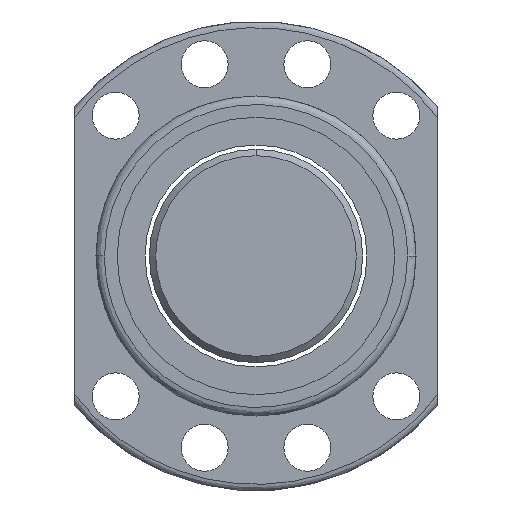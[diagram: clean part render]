
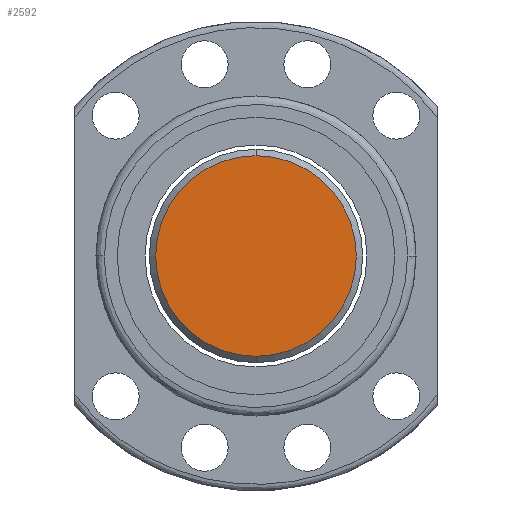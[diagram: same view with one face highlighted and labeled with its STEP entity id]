
A CAD part, left-side view. The second image highlights one B-rep face of the part: STEP entity #2592.
In plain terms, the highlighted planar face has unit normal (-1, 0, 0).
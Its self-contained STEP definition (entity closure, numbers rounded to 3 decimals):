
#363 = CARTESIAN_POINT ( 'NONE',  ( -211., 0., 23.5 ) ) ;
#514 = CIRCLE ( 'NONE', #518, 23.5 ) ;
#516 = DIRECTION ( 'NONE',  ( 0., 0., -1. ) ) ;
#517 = DIRECTION ( 'NONE',  ( 1., 0., 0. ) ) ;
#518 = AXIS2_PLACEMENT_3D ( 'NONE', #520, #517, #516 ) ;
#520 = CARTESIAN_POINT ( 'NONE',  ( -211., 0., 0. ) ) ;
#562 = DIRECTION ( 'NONE',  ( 0., 0., -1. ) ) ;
#563 = DIRECTION ( 'NONE',  ( 1., 0., 0. ) ) ;
#564 = CARTESIAN_POINT ( 'NONE',  ( -211., 0., 0. ) ) ;
#575 = AXIS2_PLACEMENT_3D ( 'NONE', #564, #563, #562 ) ;
#582 = CIRCLE ( 'NONE', #575, 23.5 ) ;
#606 = CARTESIAN_POINT ( 'NONE',  ( -211., 0., -23.5 ) ) ;
#2166 = FACE_OUTER_BOUND ( 'NONE', #2668, .T. ) ;
#2167 = PLANE ( 'NONE',  #2172 ) ;
#2168 = DIRECTION ( 'NONE',  ( -1., 0., 0. ) ) ;
#2170 = DIRECTION ( 'NONE',  ( 0., -1., 0. ) ) ;
#2171 = CARTESIAN_POINT ( 'NONE',  ( -211., 12.5, 0. ) ) ;
#2172 = AXIS2_PLACEMENT_3D ( 'NONE', #2171, #2168, #2170 ) ;
#2494 = VERTEX_POINT ( 'NONE', #363 ) ;
#2565 = EDGE_CURVE ( 'NONE', #2621, #2494, #514, .T. ) ;
#2592 = ADVANCED_FACE ( 'NONE', ( #2166 ), #2167, .T. ) ;
#2594 = ORIENTED_EDGE ( 'NONE', *, *, #2565, .F. ) ;
#2603 = EDGE_CURVE ( 'NONE', #2494, #2621, #582, .T. ) ;
#2618 = ORIENTED_EDGE ( 'NONE', *, *, #2603, .F. ) ;
#2621 = VERTEX_POINT ( 'NONE', #606 ) ;
#2668 = EDGE_LOOP ( 'NONE', ( #2594, #2618 ) ) ;
